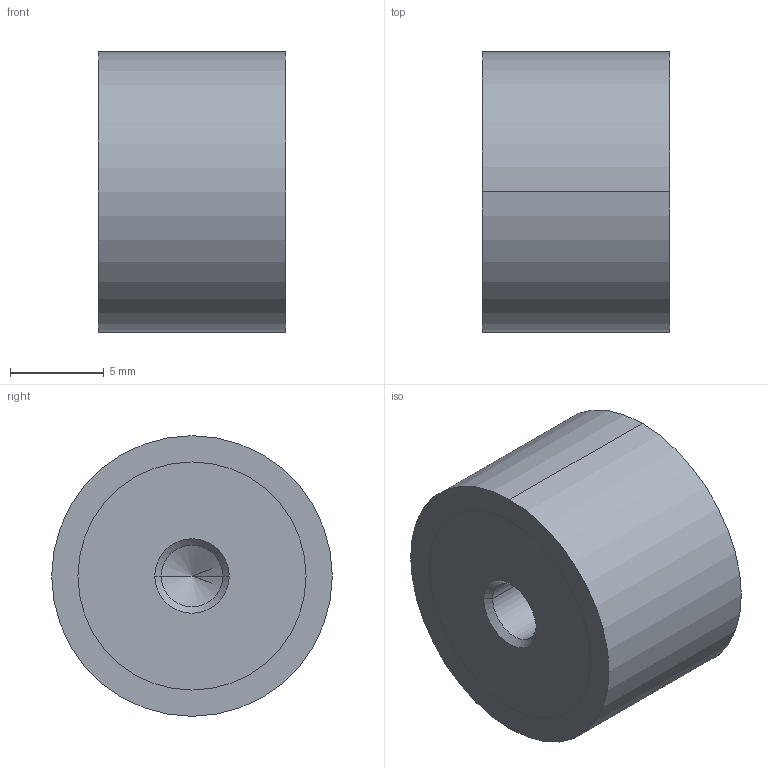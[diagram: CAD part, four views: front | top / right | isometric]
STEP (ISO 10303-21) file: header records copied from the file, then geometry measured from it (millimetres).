
FILE_DESCRIPTION (( 'STEP AP214' ), '1' );
FILE_NAME ('351-15-10-M4-EE-70.step', '2025-07-23T09:39:28', ( '' ), ( '' ), 'SwSTEP 2.0', 'SolidWorks 2022', '' );
FILE_SCHEMA (( 'AUTOMOTIVE_DESIGN' ));
Length unit declared in the file: millimetre
Products named in the file (1): 351-15-10-M4-EE-70
Bounding box: 10 x 15 x 15 mm (x, y, z)
Volume: 1689.9 mm3; surface area: 907 mm2
Topology: 1 solids, 1 shells, 28 faces, 58 edges, 34 vertices
Faces by surface type: cylinder 14, cone 8, plane 6
Entity records: 844 total; most frequent: DIRECTION 144, CARTESIAN_POINT 117, ORIENTED_EDGE 108, AXIS2_PLACEMENT_3D 61, EDGE_CURVE 54, VERTEX_POINT 34, EDGE_LOOP 34, CIRCLE 32
